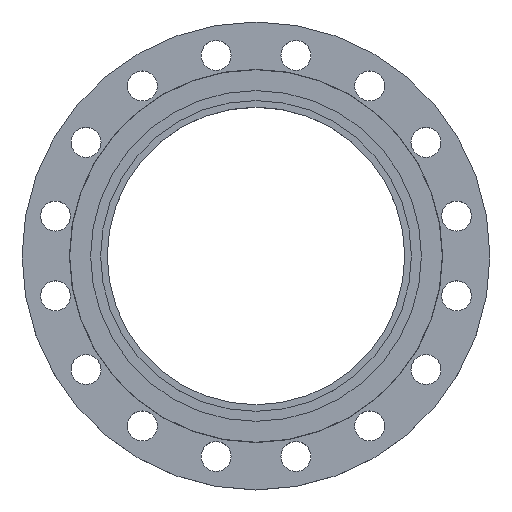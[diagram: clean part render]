
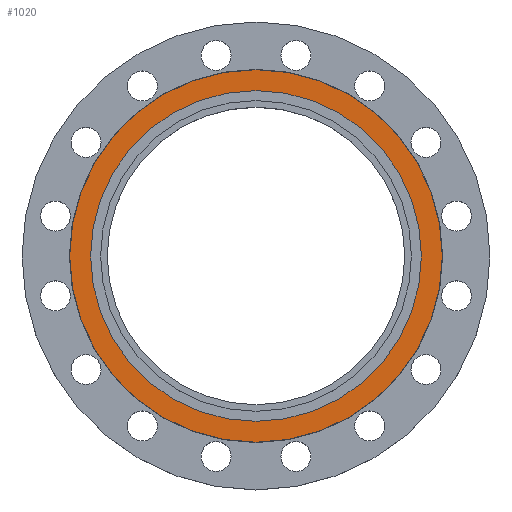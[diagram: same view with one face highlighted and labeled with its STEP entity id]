
A CAD part, top view. The second image highlights one B-rep face of the part: STEP entity #1020.
In plain terms, the highlighted planar face has unit normal (0, 0, 1).
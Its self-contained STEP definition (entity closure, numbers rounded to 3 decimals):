
#58 = EDGE_CURVE ( 'NONE', #1230, #1140, #529, .T. ) ;
#105 = CIRCLE ( 'NONE', #1039, 205. ) ;
#284 = EDGE_CURVE ( 'NONE', #1199, #1067, #1459, .T. ) ;
#427 = DIRECTION ( 'NONE',  ( -1., 0., 0. ) ) ;
#428 = DIRECTION ( 'NONE',  ( 0., 0., -1. ) ) ;
#429 = CARTESIAN_POINT ( 'NONE',  ( 0., 0., 0. ) ) ;
#492 = CARTESIAN_POINT ( 'NONE',  ( -205., 0., 0. ) ) ;
#509 = CARTESIAN_POINT ( 'NONE',  ( -182., 0., 0. ) ) ;
#529 = CIRCLE ( 'NONE', #1640, 205. ) ;
#541 = CARTESIAN_POINT ( 'NONE',  ( 205., 0., 0. ) ) ;
#565 = CARTESIAN_POINT ( 'NONE',  ( 182., 0., 0. ) ) ;
#584 = DIRECTION ( 'NONE',  ( 1., 0., 0. ) ) ;
#585 = DIRECTION ( 'NONE',  ( 0., 0., 1. ) ) ;
#586 = CARTESIAN_POINT ( 'NONE',  ( 0., 0., 0. ) ) ;
#588 = PLANE ( 'NONE',  #672 ) ;
#589 = FACE_BOUND ( 'NONE', #1133, .T. ) ;
#590 = FACE_OUTER_BOUND ( 'NONE', #1057, .T. ) ;
#672 = AXIS2_PLACEMENT_3D ( 'NONE', #586, #585, #584 ) ;
#828 = DIRECTION ( 'NONE',  ( -1., 0., 0. ) ) ;
#829 = DIRECTION ( 'NONE',  ( 0., 0., -1. ) ) ;
#831 = CARTESIAN_POINT ( 'NONE',  ( 0., 0., 0. ) ) ;
#913 = DIRECTION ( 'NONE',  ( -1., 0., 0. ) ) ;
#915 = DIRECTION ( 'NONE',  ( 0., 0., -1. ) ) ;
#916 = CARTESIAN_POINT ( 'NONE',  ( 0., 0., 0. ) ) ;
#1020 = ADVANCED_FACE ( 'NONE', ( #590, #589 ), #588, .T. ) ;
#1039 = AXIS2_PLACEMENT_3D ( 'NONE', #429, #428, #427 ) ;
#1057 = EDGE_LOOP ( 'NONE', ( #1628, #1629 ) ) ;
#1067 = VERTEX_POINT ( 'NONE', #565 ) ;
#1133 = EDGE_LOOP ( 'NONE', ( #1655, #1656 ) ) ;
#1140 = VERTEX_POINT ( 'NONE', #541 ) ;
#1199 = VERTEX_POINT ( 'NONE', #509 ) ;
#1230 = VERTEX_POINT ( 'NONE', #492 ) ;
#1259 = CIRCLE ( 'NONE', #1265, 182. ) ;
#1265 = AXIS2_PLACEMENT_3D ( 'NONE', #1695, #1694, #1690 ) ;
#1305 = EDGE_CURVE ( 'NONE', #1140, #1230, #105, .T. ) ;
#1432 = AXIS2_PLACEMENT_3D ( 'NONE', #831, #829, #828 ) ;
#1459 = CIRCLE ( 'NONE', #1432, 182. ) ;
#1628 = ORIENTED_EDGE ( 'NONE', *, *, #58, .F. ) ;
#1629 = ORIENTED_EDGE ( 'NONE', *, *, #1305, .F. ) ;
#1640 = AXIS2_PLACEMENT_3D ( 'NONE', #916, #915, #913 ) ;
#1655 = ORIENTED_EDGE ( 'NONE', *, *, #284, .T. ) ;
#1656 = ORIENTED_EDGE ( 'NONE', *, *, #1716, .T. ) ;
#1690 = DIRECTION ( 'NONE',  ( -1., 0., 0. ) ) ;
#1694 = DIRECTION ( 'NONE',  ( 0., 0., -1. ) ) ;
#1695 = CARTESIAN_POINT ( 'NONE',  ( 0., 0., 0. ) ) ;
#1716 = EDGE_CURVE ( 'NONE', #1067, #1199, #1259, .T. ) ;
